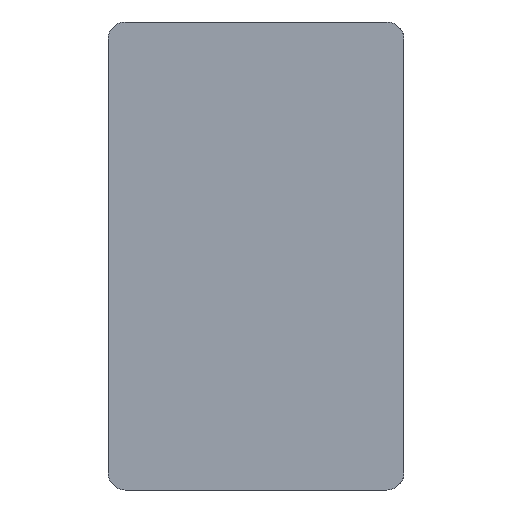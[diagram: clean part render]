
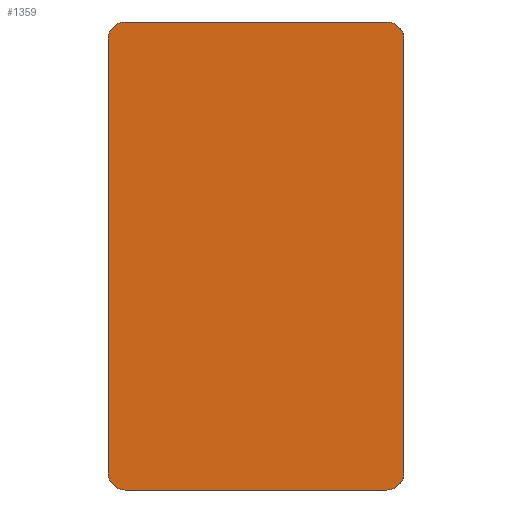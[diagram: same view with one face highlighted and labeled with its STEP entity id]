
A CAD part, front view. The second image highlights one B-rep face of the part: STEP entity #1359.
In plain terms, the highlighted planar face has unit normal (0, -1, 0).
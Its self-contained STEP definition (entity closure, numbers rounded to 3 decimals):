
#37 = VERTEX_POINT ( 'NONE', #149 ) ;
#48 = FACE_OUTER_BOUND ( 'NONE', #817, .T. ) ;
#88 = CARTESIAN_POINT ( 'NONE',  ( 81., 0., -136. ) ) ;
#94 = VERTEX_POINT ( 'NONE', #1058 ) ;
#97 = CARTESIAN_POINT ( 'NONE',  ( 0., 0., -131. ) ) ;
#100 = DIRECTION ( 'NONE',  ( -1., 0., 0. ) ) ;
#107 = AXIS2_PLACEMENT_3D ( 'NONE', #1177, #143, #944 ) ;
#143 = DIRECTION ( 'NONE',  ( 0., 1., 0. ) ) ;
#148 = ORIENTED_EDGE ( 'NONE', *, *, #585, .F. ) ;
#149 = CARTESIAN_POINT ( 'NONE',  ( 5., 0., -136. ) ) ;
#154 = DIRECTION ( 'NONE',  ( 0., 1., 0. ) ) ;
#168 = VERTEX_POINT ( 'NONE', #1080 ) ;
#188 = ORIENTED_EDGE ( 'NONE', *, *, #447, .F. ) ;
#210 = ORIENTED_EDGE ( 'NONE', *, *, #966, .F. ) ;
#227 = CARTESIAN_POINT ( 'NONE',  ( 5., 0., -136. ) ) ;
#235 = CARTESIAN_POINT ( 'NONE',  ( 0., 0., -5. ) ) ;
#292 = ORIENTED_EDGE ( 'NONE', *, *, #1232, .F. ) ;
#336 = CIRCLE ( 'NONE', #107, 5. ) ;
#340 = CARTESIAN_POINT ( 'NONE',  ( 86., 0., -131. ) ) ;
#348 = ORIENTED_EDGE ( 'NONE', *, *, #1069, .F. ) ;
#382 = VECTOR ( 'NONE', #1479, 1000. ) ;
#405 = PLANE ( 'NONE',  #1150 ) ;
#438 = CARTESIAN_POINT ( 'NONE',  ( 5., 0., -131. ) ) ;
#447 = EDGE_CURVE ( 'NONE', #168, #1006, #1040, .T. ) ;
#479 = DIRECTION ( 'NONE',  ( 0., 0., -1. ) ) ;
#511 = DIRECTION ( 'NONE',  ( 0., 0., -1. ) ) ;
#581 = DIRECTION ( 'NONE',  ( 0., 1., 0. ) ) ;
#585 = EDGE_CURVE ( 'NONE', #1006, #1398, #1126, .T. ) ;
#594 = ORIENTED_EDGE ( 'NONE', *, *, #946, .F. ) ;
#625 = CIRCLE ( 'NONE', #1408, 5. ) ;
#648 = AXIS2_PLACEMENT_3D ( 'NONE', #1152, #581, #479 ) ;
#662 = DIRECTION ( 'NONE',  ( 0., 1., 0. ) ) ;
#749 = VECTOR ( 'NONE', #1115, 1000. ) ;
#760 = DIRECTION ( 'NONE',  ( 0., -1., 0. ) ) ;
#791 = LINE ( 'NONE', #227, #1034 ) ;
#799 = ORIENTED_EDGE ( 'NONE', *, *, #807, .F. ) ;
#807 = EDGE_CURVE ( 'NONE', #903, #870, #1305, .T. ) ;
#817 = EDGE_LOOP ( 'NONE', ( #348, #210, #1285, #594, #148, #188, #292, #799 ) ) ;
#839 = CARTESIAN_POINT ( 'NONE',  ( 81., 0., -131. ) ) ;
#870 = VERTEX_POINT ( 'NONE', #1205 ) ;
#903 = VERTEX_POINT ( 'NONE', #1136 ) ;
#911 = EDGE_CURVE ( 'NONE', #37, #1431, #625, .T. ) ;
#944 = DIRECTION ( 'NONE',  ( 0., 0., 1. ) ) ;
#946 = EDGE_CURVE ( 'NONE', #1398, #37, #791, .T. ) ;
#966 = EDGE_CURVE ( 'NONE', #1431, #94, #1052, .T. ) ;
#1006 = VERTEX_POINT ( 'NONE', #340 ) ;
#1034 = VECTOR ( 'NONE', #100, 1000. ) ;
#1040 = LINE ( 'NONE', #1472, #382 ) ;
#1052 = LINE ( 'NONE', #235, #749 ) ;
#1058 = CARTESIAN_POINT ( 'NONE',  ( 0., 0., -5. ) ) ;
#1069 = EDGE_CURVE ( 'NONE', #94, #903, #1405, .T. ) ;
#1080 = CARTESIAN_POINT ( 'NONE',  ( 86., 0., -5. ) ) ;
#1096 = DIRECTION ( 'NONE',  ( 1., 0., 0. ) ) ;
#1115 = DIRECTION ( 'NONE',  ( 0., 0., 1. ) ) ;
#1126 = CIRCLE ( 'NONE', #1461, 5. ) ;
#1136 = CARTESIAN_POINT ( 'NONE',  ( 5., 0., 0. ) ) ;
#1150 = AXIS2_PLACEMENT_3D ( 'NONE', #1320, #760, #511 ) ;
#1152 = CARTESIAN_POINT ( 'NONE',  ( 5., 0., -5. ) ) ;
#1177 = CARTESIAN_POINT ( 'NONE',  ( 81., 0., -5. ) ) ;
#1205 = CARTESIAN_POINT ( 'NONE',  ( 81., 0., 0. ) ) ;
#1230 = VECTOR ( 'NONE', #1096, 1000. ) ;
#1232 = EDGE_CURVE ( 'NONE', #870, #168, #336, .T. ) ;
#1285 = ORIENTED_EDGE ( 'NONE', *, *, #911, .F. ) ;
#1305 = LINE ( 'NONE', #1444, #1230 ) ;
#1320 = CARTESIAN_POINT ( 'NONE',  ( 5., 0., -5. ) ) ;
#1359 = ADVANCED_FACE ( 'NONE', ( #48 ), #405, .T. ) ;
#1398 = VERTEX_POINT ( 'NONE', #88 ) ;
#1405 = CIRCLE ( 'NONE', #648, 5. ) ;
#1406 = DIRECTION ( 'NONE',  ( 0., 0., -1. ) ) ;
#1408 = AXIS2_PLACEMENT_3D ( 'NONE', #438, #662, #1469 ) ;
#1431 = VERTEX_POINT ( 'NONE', #97 ) ;
#1444 = CARTESIAN_POINT ( 'NONE',  ( 5., 0., 0. ) ) ;
#1461 = AXIS2_PLACEMENT_3D ( 'NONE', #839, #154, #1406 ) ;
#1469 = DIRECTION ( 'NONE',  ( 0., 0., -1. ) ) ;
#1472 = CARTESIAN_POINT ( 'NONE',  ( 86., 0., -5. ) ) ;
#1479 = DIRECTION ( 'NONE',  ( 0., 0., -1. ) ) ;
